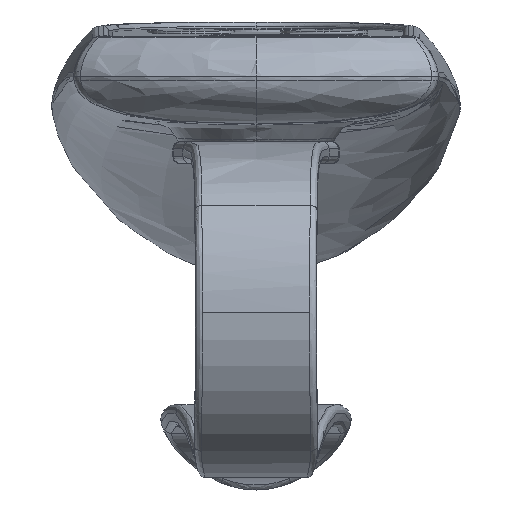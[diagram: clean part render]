
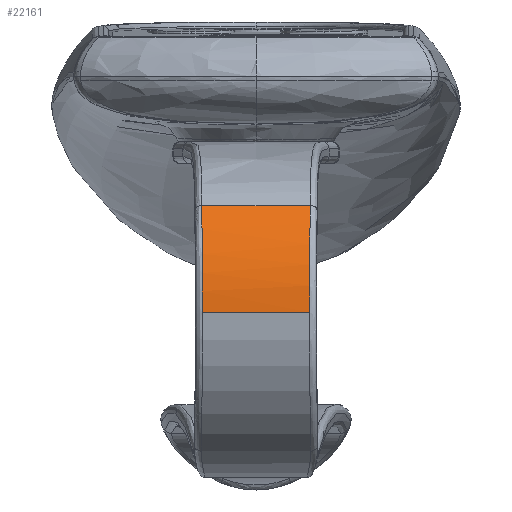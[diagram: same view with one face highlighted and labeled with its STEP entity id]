
A CAD part, top view. The second image highlights one B-rep face of the part: STEP entity #22161.
In plain terms, the highlighted cylindrical face has radius 19 mm (diameter 38 mm), a partial arc.
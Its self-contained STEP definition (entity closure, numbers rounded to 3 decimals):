
#82 = CARTESIAN_POINT ( 'NONE',  ( 6.221, -14.909, 59.489 ) ) ;
#83 = CARTESIAN_POINT ( 'NONE',  ( 12.5, -27.2, 64. ) ) ;
#455 = CARTESIAN_POINT ( 'NONE',  ( 6.203, -20.656, 62.837 ) ) ;
#580 = CARTESIAN_POINT ( 'NONE',  ( 6.202, -21.449, 63.11 ) ) ;
#708 = CARTESIAN_POINT ( 'NONE',  ( 6.204, -19.418, 62.383 ) ) ;
#844 = CARTESIAN_POINT ( 'NONE',  ( 6.203, -20.733, 62.866 ) ) ;
#1357 = DIRECTION ( 'NONE',  ( 0., 0., 1. ) ) ;
#2055 = CARTESIAN_POINT ( 'NONE',  ( -6.204, -19.465, 62.357 ) ) ;
#2295 = CARTESIAN_POINT ( 'NONE',  ( -6.203, -20.635, 62.83 ) ) ;
#2417 = CARTESIAN_POINT ( 'NONE',  ( -6.203, -20.587, 62.812 ) ) ;
#3025 = B_SPLINE_CURVE_WITH_KNOTS ( 'NONE', 3,
 ( #5106, #37298, #28747, #11233, #16757, #37545, #2055, #14173, #28500, #37424, #28262, #2417, #31302, #2295, #25457, #34112, #22764, #20081, #19580, #34611, #13690 ),
 .UNSPECIFIED., .F., .F.,
 ( 4, 2, 2, 2, 1, 1, 1, 1, 1, 2, 2, 2, 4 ),
 ( 0., 0.25, 0.375, 0.437, 0.469, 0.484, 0.492, 0.496, 0.498, 0.499, 0.5, 0.75, 1. ),
 .UNSPECIFIED. ) ;
#3259 = CARTESIAN_POINT ( 'NONE',  ( 6.201, -24.493, 63.839 ) ) ;
#3510 = CARTESIAN_POINT ( 'NONE',  ( 6.203, -20.671, 62.843 ) ) ;
#5106 = CARTESIAN_POINT ( 'NONE',  ( -6.221, -14.909, 59.489 ) ) ;
#6311 = CARTESIAN_POINT ( 'NONE',  ( 6.221, -14.909, 59.489 ) ) ;
#8464 = EDGE_CURVE ( 'NONE', #21174, #27599, #19480, .T. ) ;
#8519 = EDGE_CURVE ( 'NONE', #30756, #8855, #3025, .T. ) ;
#8855 = VERTEX_POINT ( 'NONE', #13389 ) ;
#9275 = CARTESIAN_POINT ( 'NONE',  ( 6.201, -22.855, 63.505 ) ) ;
#11025 = CARTESIAN_POINT ( 'NONE',  ( -6.221, -14.909, 59.489 ) ) ;
#11233 = CARTESIAN_POINT ( 'NONE',  ( -6.208, -17.853, 61.551 ) ) ;
#11844 = DIRECTION ( 'NONE',  ( -1., 0., 0. ) ) ;
#13389 = CARTESIAN_POINT ( 'NONE',  ( -6.2, -27.2, 64. ) ) ;
#13690 = CARTESIAN_POINT ( 'NONE',  ( -6.2, -27.2, 64. ) ) ;
#14173 = CARTESIAN_POINT ( 'NONE',  ( -6.204, -19.901, 62.543 ) ) ;
#15012 = CARTESIAN_POINT ( 'NONE',  ( 6.202, -21.667, 63.178 ) ) ;
#15403 = CARTESIAN_POINT ( 'NONE',  ( 6.206, -18.328, 61.838 ) ) ;
#15554 = CARTESIAN_POINT ( 'NONE',  ( 12.5, -27.2, 45. ) ) ;
#15683 = LINE ( 'NONE', #83, #33048 ) ;
#16757 = CARTESIAN_POINT ( 'NONE',  ( -6.206, -18.364, 61.831 ) ) ;
#19480 = B_SPLINE_CURVE_WITH_KNOTS ( 'NONE', 3,
 ( #35720, #20778, #3259, #9275, #32510, #15012, #580, #21156, #26783, #26915, #844, #20902, #3510, #32387, #24002, #455, #708, #15403, #35590, #29702, #6311 ),
 .UNSPECIFIED., .F., .F.,
 ( 4, 2, 2, 2, 1, 1, 1, 1, 1, 2, 2, 2, 4 ),
 ( 0., 0.25, 0.375, 0.438, 0.469, 0.484, 0.492, 0.496, 0.498, 0.499, 0.5, 0.75, 1. ),
 .UNSPECIFIED. ) ;
#19580 = CARTESIAN_POINT ( 'NONE',  ( -6.201, -24.495, 63.839 ) ) ;
#19908 = AXIS2_PLACEMENT_3D ( 'NONE', #15554, #36371, #1357 ) ;
#20081 = CARTESIAN_POINT ( 'NONE',  ( -6.201, -22.312, 63.394 ) ) ;
#20228 = VECTOR ( 'NONE', #20389, 1000. ) ;
#20389 = DIRECTION ( 'NONE',  ( 1., 0., 0. ) ) ;
#20409 = ORIENTED_EDGE ( 'NONE', *, *, #8519, .T. ) ;
#20778 = CARTESIAN_POINT ( 'NONE',  ( 6.2, -25.765, 64. ) ) ;
#20829 = ORIENTED_EDGE ( 'NONE', *, *, #22757, .F. ) ;
#20902 = CARTESIAN_POINT ( 'NONE',  ( 6.203, -20.692, 62.851 ) ) ;
#21156 = CARTESIAN_POINT ( 'NONE',  ( 6.202, -21.137, 63.007 ) ) ;
#21174 = VERTEX_POINT ( 'NONE', #29608 ) ;
#22161 = ADVANCED_FACE ( 'NONE', ( #31235 ), #22583, .T. ) ;
#22583 = CYLINDRICAL_SURFACE ( 'NONE', #19908, 19. ) ;
#22757 = EDGE_CURVE ( 'NONE', #21174, #8855, #15683, .T. ) ;
#22764 = CARTESIAN_POINT ( 'NONE',  ( -6.202, -21.399, 63.11 ) ) ;
#24002 = CARTESIAN_POINT ( 'NONE',  ( 6.203, -20.657, 62.838 ) ) ;
#25185 = EDGE_CURVE ( 'NONE', #30756, #27599, #32072, .T. ) ;
#25381 = ORIENTED_EDGE ( 'NONE', *, *, #8464, .T. ) ;
#25401 = CARTESIAN_POINT ( 'NONE',  ( 0., -14.909, 59.489 ) ) ;
#25457 = CARTESIAN_POINT ( 'NONE',  ( -6.203, -20.644, 62.833 ) ) ;
#26783 = CARTESIAN_POINT ( 'NONE',  ( 6.202, -20.986, 62.956 ) ) ;
#26915 = CARTESIAN_POINT ( 'NONE',  ( 6.203, -20.816, 62.896 ) ) ;
#27599 = VERTEX_POINT ( 'NONE', #82 ) ;
#28262 = CARTESIAN_POINT ( 'NONE',  ( -6.203, -20.52, 62.787 ) ) ;
#28500 = CARTESIAN_POINT ( 'NONE',  ( -6.203, -20.122, 62.634 ) ) ;
#28747 = CARTESIAN_POINT ( 'NONE',  ( -6.212, -16.423, 60.687 ) ) ;
#29608 = CARTESIAN_POINT ( 'NONE',  ( 6.2, -27.2, 64. ) ) ;
#29702 = CARTESIAN_POINT ( 'NONE',  ( 6.216, -15.606, 60.08 ) ) ;
#30756 = VERTEX_POINT ( 'NONE', #11025 ) ;
#31235 = FACE_OUTER_BOUND ( 'NONE', #37712, .T. ) ;
#31302 = CARTESIAN_POINT ( 'NONE',  ( -6.203, -20.62, 62.824 ) ) ;
#32072 = LINE ( 'NONE', #25401, #20228 ) ;
#32387 = CARTESIAN_POINT ( 'NONE',  ( 6.203, -20.662, 62.84 ) ) ;
#32510 = CARTESIAN_POINT ( 'NONE',  ( 6.202, -22.354, 63.378 ) ) ;
#33048 = VECTOR ( 'NONE', #11844, 1000. ) ;
#34112 = CARTESIAN_POINT ( 'NONE',  ( -6.203, -20.651, 62.836 ) ) ;
#34154 = ORIENTED_EDGE ( 'NONE', *, *, #25185, .F. ) ;
#34611 = CARTESIAN_POINT ( 'NONE',  ( -6.2, -25.766, 64. ) ) ;
#35590 = CARTESIAN_POINT ( 'NONE',  ( 6.212, -16.422, 60.687 ) ) ;
#35720 = CARTESIAN_POINT ( 'NONE',  ( 6.2, -27.2, 64. ) ) ;
#36371 = DIRECTION ( 'NONE',  ( -1., 0., 0. ) ) ;
#37298 = CARTESIAN_POINT ( 'NONE',  ( -6.216, -15.606, 60.081 ) ) ;
#37424 = CARTESIAN_POINT ( 'NONE',  ( -6.203, -20.386, 62.737 ) ) ;
#37545 = CARTESIAN_POINT ( 'NONE',  ( -6.205, -19.183, 62.228 ) ) ;
#37712 = EDGE_LOOP ( 'NONE', ( #20829, #25381, #34154, #20409 ) ) ;
